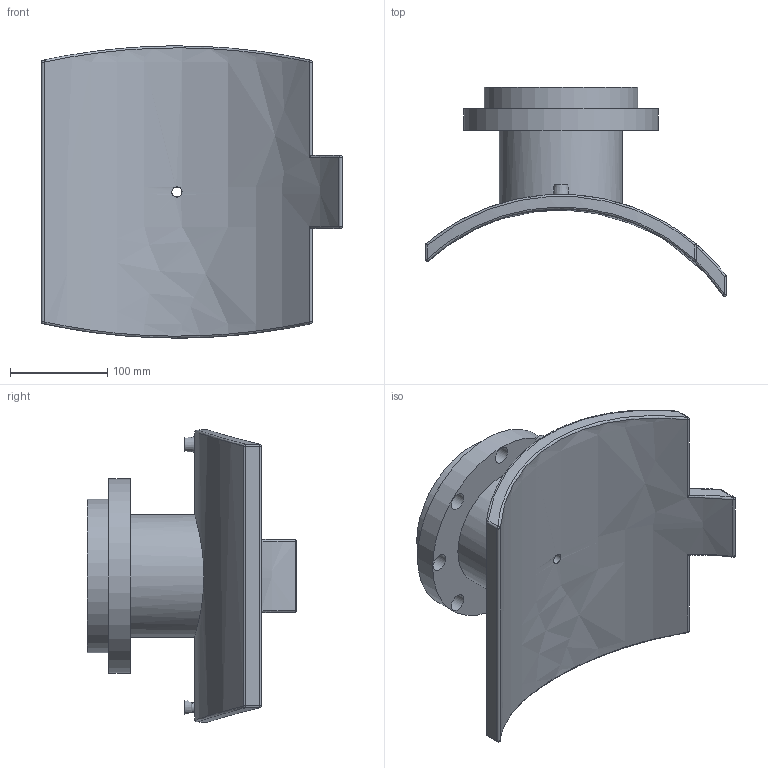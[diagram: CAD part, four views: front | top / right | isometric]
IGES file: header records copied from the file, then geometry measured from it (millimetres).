
Global section: file name: 495804400110T.ipt; native system: Autodesk Inventor 2015; preprocessor: unknown; author: KIM; date: 20171106.094357; units: millimetre
Bounding box: 309 x 214.76 x 299.98 mm (x, y, z)
Volume: 2440381.7 mm3; surface area: 342139.6 mm2
Topology: 2 solids, 2 shells, 75 faces, 156 edges, 95 vertices
Faces by surface type: cylinder 24, revolution 17, plane 16, sphere 12, bspline 4, cone 2
Full cylindrical faces by diameter (mm): 4 x2, 16 x1, 126.4 x1, 158 x1, 200 x1
